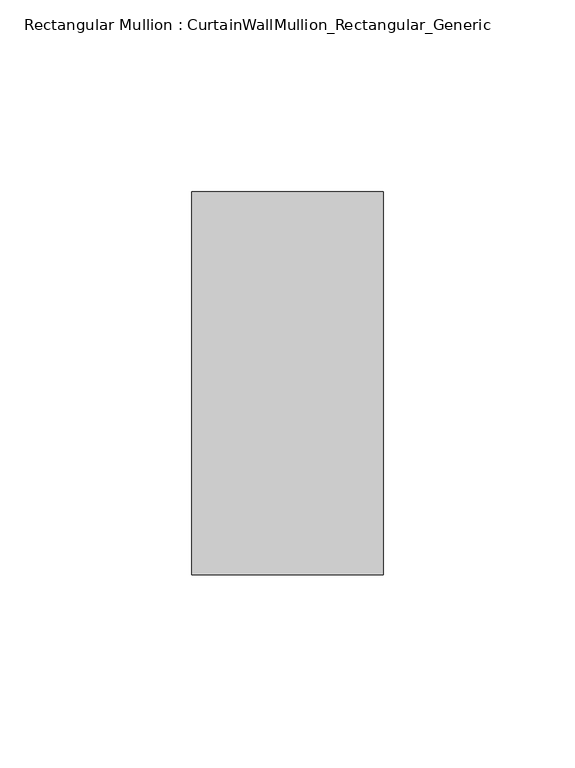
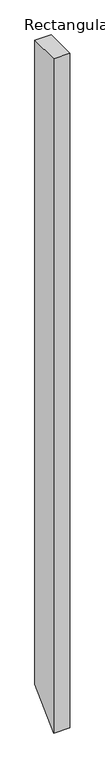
"""IFC4 building model written with IfcOpenShell, lengths in millimetres: member geometry, Rectangular Mullion : CurtainWallMullion_Rectangular_Generic."""

from ifc_helpers import new_model, si_unit, frame, origin, place, context, project, spatial, polyline, outline, extrude, source, transform, mapped, element, save


def rectangular_mullion_curtainwallmullion_rectangular_generic_25199054(model_context):
    return source(origin(), model_context, "Body", "SweptSolid", [
        extrude(outline(polyline([(-50.0, 0.0), (50.0, 0.0), (50.0, -2107.0000002), (-50.0, -2207.0000002), (-50.0, 0.0)])), frame((-50.0, 0.0, 0.0), z_axis=(1.0, 0.0, 0.0), x_axis=(0.0, 1.0, 0.0)), (0.0, 0.0, 1.0), 50.0),
    ])


if __name__ == "__main__":
    model = new_model("IFC4")
    model_context = context("Model", 3, world=origin())
    ifc_project = project(units=[si_unit("LENGTHUNIT", "METRE", prefix="MILLI")], contexts=[model_context])
    site = spatial("IfcSite", under=ifc_project)
    building = spatial("IfcBuilding", under=site)
    placement = place(None, origin())
    rectangular_mullion_curtainwallmullion_rectangular_generic_shape = rectangular_mullion_curtainwallmullion_rectangular_generic_25199054(model_context)
    element("IfcMember", 1, ObjectType="Rectangular Mullion : CurtainWallMullion_Rectangular_Generic", at=placement, inside=building, context=model_context, shape_type="MappedRepresentation", body=[
        mapped(rectangular_mullion_curtainwallmullion_rectangular_generic_shape, transform((0.0, 0.0, 0.0), x_axis=(1.0, 0.0, 0.0), y_axis=(0.0, 1.0, 0.0), z_axis=(0.0, 0.0, 1.0))),
    ])
    save(model, "model.ifc")
